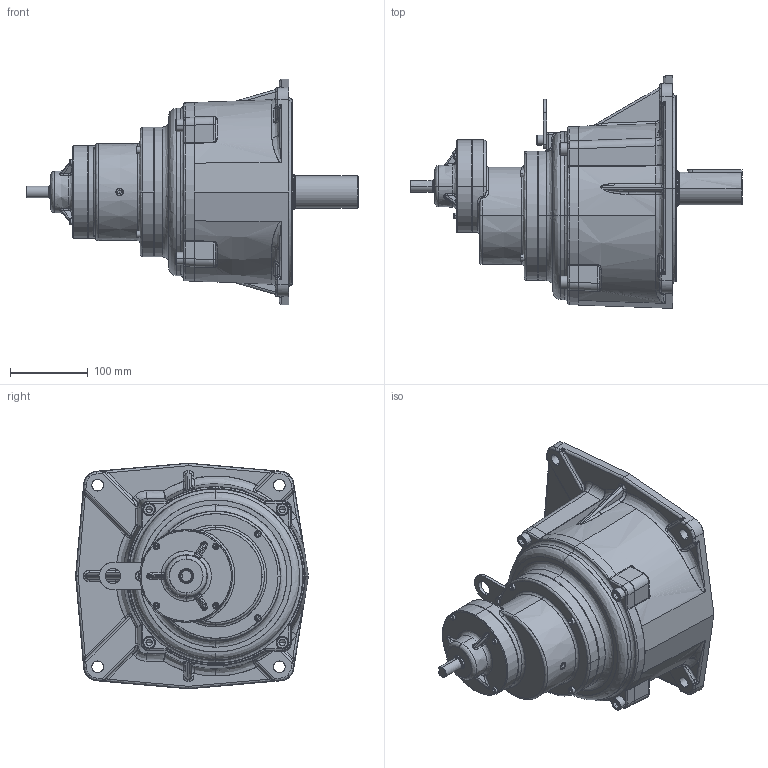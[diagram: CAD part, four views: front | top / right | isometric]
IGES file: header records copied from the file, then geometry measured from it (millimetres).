
Start section: SolidWorks IGES file using analytic representation for surfaces
Bounding box: 426.5 x 299 x 290 mm (x, y, z)
Surface area: 571829.4 mm2 (no closed solid volume)
Topology: 0 solids, 0 shells, 1000 faces, 12226 edges, 12152 vertices
Faces by surface type: bspline 597, revolution 403
